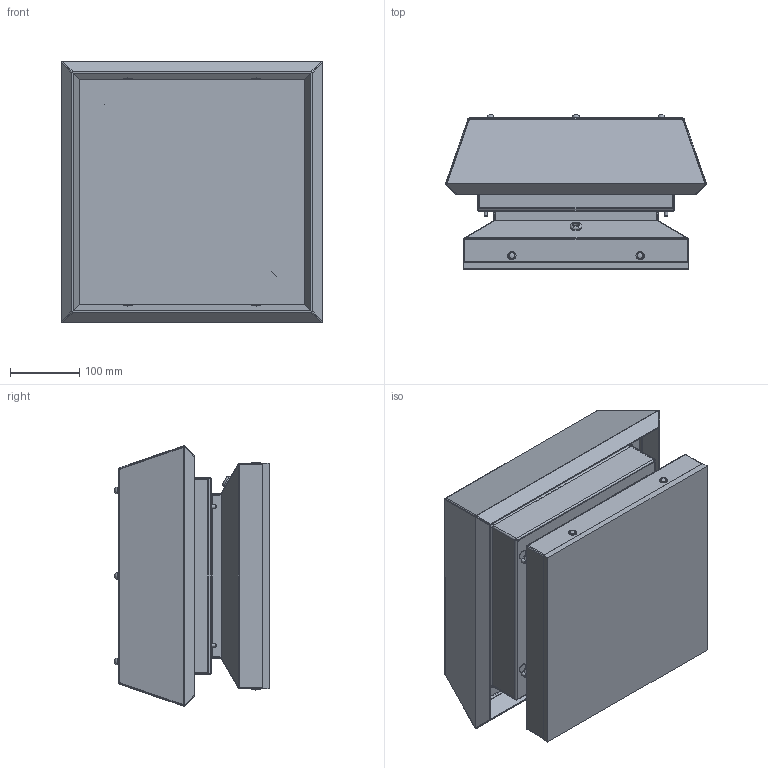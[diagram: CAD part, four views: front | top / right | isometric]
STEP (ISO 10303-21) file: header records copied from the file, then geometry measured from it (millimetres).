
FILE_DESCRIPTION (( 'STEP AP203' ), '1' );
FILE_NAME ('RV 38.38 Ïàíåëü âåíòèëÿòîðíàÿ.STEP', '2017-11-20T11:07:59', ( 'user' ), ( '' ), 'SwSTEP 2.0', 'SolidWorks 2012', '' );
FILE_SCHEMA (( 'CONFIG_CONTROL_DESIGN' ));
Length unit declared in the file: millimetre
Products named in the file (8): Çàãëóøêà äåêîðàòèâíàÿ Skiffy 055 0093 000 03; asdfsafd_20; Çàêëåïêà âûòÿæíàÿ ðåçüáîâàÿ ðèôëåíàÿ îö. Ì5_1,4; Êàáåëüíûé ââîä 530301; RV 38.38 Êðûøêà âåðõíÿÿ; RV 38.38 Ïàíåëü âåíòèëÿòîðíàÿ; RV 38.38 Ïëîùàäêà ïîä âåíòèëÿòîð; RV 38.38 Ïàíåëü êðåïëåíèÿ âåíòèëÿòîðà
Assembly tree (13 placements, depth 2):
  RV 38.38 Ïàíåëü âåíòèëÿòîðíàÿ
    RV 38.38 Ïàíåëü êðåïëåíèÿ âåíòèëÿòîðà
    RV 38.38 Ïëîùàäêà ïîä âåíòèëÿòîð
    RV 38.38 Êðûøêà âåðõíÿÿ
    Çàãëóøêà äåêîðàòèâíàÿ Skiffy 055 0093 000 03  x4
    Êàáåëüíûé ââîä 530301
    Çàêëåïêà âûòÿæíàÿ ðåçüáîâàÿ ðèôëåíàÿ îö. Ì5_1,4  x4
    asdfsafd_20
Bounding box: 376.3 x 222.3 x 376.3 mm (x, y, z)
Volume: 10003935.8 mm3; surface area: 1405934.3 mm2
Topology: 13 solids, 13 shells, 381 faces, 838 edges, 509 vertices
Faces by surface type: plane 178, cylinder 133, torus 34, sphere 24, cone 12
Full cylindrical faces by diameter (mm): 3.8 x4, 5 x4, 6.049 x4, 6.4 x4, 7 x12, 8 x1, 9 x4, 10 x4, 11 x4, 12 x4
Entity records: 9508 total; most frequent: CARTESIAN_POINT 1583, DIRECTION 1494, ORIENTED_EDGE 1322, EDGE_CURVE 661, AXIS2_PLACEMENT_3D 544, VERTEX_POINT 429, LINE 406, VECTOR 406
